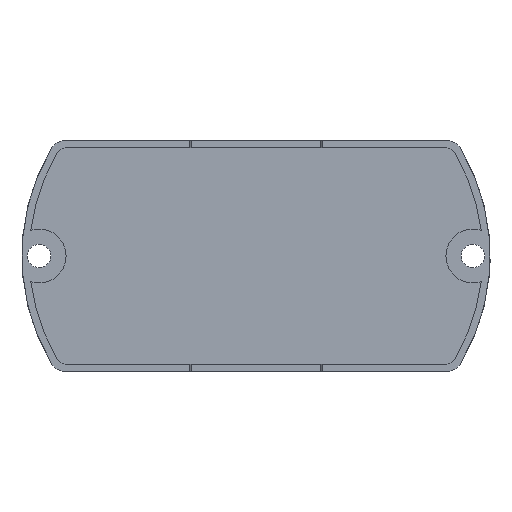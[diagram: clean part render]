
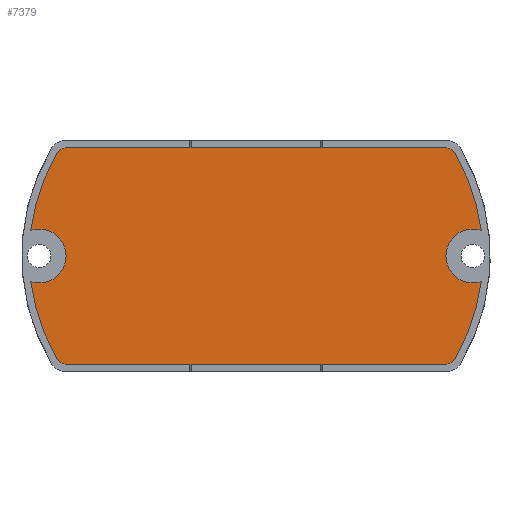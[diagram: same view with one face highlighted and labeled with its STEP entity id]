
A CAD part, front view. The second image highlights one B-rep face of the part: STEP entity #7379.
In plain terms, the highlighted planar face has unit normal (0, -1, 0).
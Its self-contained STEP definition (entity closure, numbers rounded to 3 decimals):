
#2657=CARTESIAN_POINT('',(-6.355,5.5,0.));
#2658=DIRECTION('',(0.,-1.,0.));
#2659=DIRECTION('',(-0.992,0.,-0.126));
#2660=AXIS2_PLACEMENT_3D('',#2657,#2658,#2659);
#2662=CARTESIAN_POINT('',(-60.25,5.5,0.));
#2663=DIRECTION('',(0.,1.,0.));
#2664=DIRECTION('',(-0.306,0.,0.952));
#2665=AXIS2_PLACEMENT_3D('',#2662,#2663,#2664);
#2667=CARTESIAN_POINT('',(-6.355,5.5,0.));
#2668=DIRECTION('',(0.,-1.,0.));
#2669=DIRECTION('',(-0.861,0.,0.508));
#2670=AXIS2_PLACEMENT_3D('',#2667,#2668,#2669);
#2672=CARTESIAN_POINT('',(-52.996,5.5,27.5));
#2673=DIRECTION('',(0.,-1.,0.));
#2674=DIRECTION('',(0.,0.,1.));
#2675=AXIS2_PLACEMENT_3D('',#2672,#2673,#2674);
#2677=DIRECTION('',(-1.,0.,0.));
#2678=VECTOR('',#2677,105.993);
#2679=CARTESIAN_POINT('',(52.996,5.5,30.));
#2680=LINE('',#2679,#2678);
#2681=CARTESIAN_POINT('',(52.996,5.5,27.5));
#2682=DIRECTION('',(0.,-1.,0.));
#2683=DIRECTION('',(0.861,0.,0.508));
#2684=AXIS2_PLACEMENT_3D('',#2681,#2682,#2683);
#2686=CARTESIAN_POINT('',(6.355,5.5,0.));
#2687=DIRECTION('',(0.,-1.,0.));
#2688=DIRECTION('',(0.992,0.,0.126));
#2689=AXIS2_PLACEMENT_3D('',#2686,#2687,#2688);
#2691=CARTESIAN_POINT('',(60.25,5.5,0.));
#2692=DIRECTION('',(0.,1.,0.));
#2693=DIRECTION('',(0.306,0.,-0.952));
#2694=AXIS2_PLACEMENT_3D('',#2691,#2692,#2693);
#2696=CARTESIAN_POINT('',(6.355,5.5,0.));
#2697=DIRECTION('',(0.,-1.,0.));
#2698=DIRECTION('',(0.861,0.,-0.508));
#2699=AXIS2_PLACEMENT_3D('',#2696,#2697,#2698);
#2701=CARTESIAN_POINT('',(52.996,5.5,-27.5));
#2702=DIRECTION('',(0.,-1.,0.));
#2703=DIRECTION('',(0.,0.,-1.));
#2704=AXIS2_PLACEMENT_3D('',#2701,#2702,#2703);
#2706=DIRECTION('',(1.,0.,0.));
#2707=VECTOR('',#2706,105.993);
#2708=CARTESIAN_POINT('',(-52.996,5.5,-30.));
#2709=LINE('',#2708,#2707);
#2710=CARTESIAN_POINT('',(-52.996,5.5,-27.5));
#2711=DIRECTION('',(0.,-1.,0.));
#2712=DIRECTION('',(-0.861,0.,-0.508));
#2713=AXIS2_PLACEMENT_3D('',#2710,#2711,#2712);
#2979=CARTESIAN_POINT('',(-62.548,5.5,7.139));
#2980=CARTESIAN_POINT('',(-62.548,5.5,-7.139));
#2981=VERTEX_POINT('',#2979);
#2982=VERTEX_POINT('',#2980);
#2983=CARTESIAN_POINT('',(62.548,5.5,-7.139));
#2984=CARTESIAN_POINT('',(62.548,5.5,7.139));
#2985=VERTEX_POINT('',#2983);
#2986=VERTEX_POINT('',#2984);
#3011=CARTESIAN_POINT('',(-55.15,5.5,-28.77));
#3012=VERTEX_POINT('',#3011);
#3013=CARTESIAN_POINT('',(-52.996,5.5,-30.));
#3014=VERTEX_POINT('',#3013);
#3015=CARTESIAN_POINT('',(52.996,5.5,-30.));
#3016=VERTEX_POINT('',#3015);
#3017=CARTESIAN_POINT('',(55.15,5.5,-28.77));
#3018=VERTEX_POINT('',#3017);
#3019=CARTESIAN_POINT('',(55.15,5.5,28.77));
#3020=VERTEX_POINT('',#3019);
#3021=CARTESIAN_POINT('',(52.996,5.5,30.));
#3022=VERTEX_POINT('',#3021);
#3023=CARTESIAN_POINT('',(-52.996,5.5,30.));
#3024=VERTEX_POINT('',#3023);
#3025=CARTESIAN_POINT('',(-55.15,5.5,28.77));
#3026=VERTEX_POINT('',#3025);
#7360=CARTESIAN_POINT('',(0.,5.5,-32.));
#7361=DIRECTION('',(0.,-1.,0.));
#7362=DIRECTION('',(-1.,0.,0.));
#7363=AXIS2_PLACEMENT_3D('',#7360,#7361,#7362);
#7364=PLANE('',#7363);
#7365=ORIENTED_EDGE('',*,*,#7173,.F.);
#7366=ORIENTED_EDGE('',*,*,#7187,.F.);
#7367=ORIENTED_EDGE('',*,*,#7201,.F.);
#7368=ORIENTED_EDGE('',*,*,#7215,.F.);
#7369=ORIENTED_EDGE('',*,*,#7234,.F.);
#7370=ORIENTED_EDGE('',*,*,#7299,.F.);
#7371=ORIENTED_EDGE('',*,*,#7313,.F.);
#7372=ORIENTED_EDGE('',*,*,#7327,.F.);
#7373=ORIENTED_EDGE('',*,*,#7341,.F.);
#7374=ORIENTED_EDGE('',*,*,#7354,.F.);
#7375=ORIENTED_EDGE('',*,*,#7139,.F.);
#7376=ORIENTED_EDGE('',*,*,#7159,.F.);
#7377=EDGE_LOOP('',(#7365,#7366,#7367,#7368,#7369,#7370,#7371,#7372,#7373,#7374,
#7375,#7376));
#7378=FACE_OUTER_BOUND('',#7377,.F.);
#2661=CIRCLE('',#2660,56.645);
#2666=CIRCLE('',#2665,7.5);
#2671=CIRCLE('',#2670,56.645);
#2676=CIRCLE('',#2675,2.5);
#2685=CIRCLE('',#2684,2.5);
#2690=CIRCLE('',#2689,56.645);
#2695=CIRCLE('',#2694,7.5);
#2700=CIRCLE('',#2699,56.645);
#2705=CIRCLE('',#2704,2.5);
#2714=CIRCLE('',#2713,2.5);
#7139=EDGE_CURVE('',#3014,#3016,#2709,.T.);
#7159=EDGE_CURVE('',#3012,#3014,#2714,.T.);
#7173=EDGE_CURVE('',#2982,#3012,#2661,.T.);
#7187=EDGE_CURVE('',#2981,#2982,#2666,.T.);
#7201=EDGE_CURVE('',#3026,#2981,#2671,.T.);
#7215=EDGE_CURVE('',#3024,#3026,#2676,.T.);
#7234=EDGE_CURVE('',#3022,#3024,#2680,.T.);
#7299=EDGE_CURVE('',#3020,#3022,#2685,.T.);
#7313=EDGE_CURVE('',#2986,#3020,#2690,.T.);
#7327=EDGE_CURVE('',#2985,#2986,#2695,.T.);
#7341=EDGE_CURVE('',#3018,#2985,#2700,.T.);
#7354=EDGE_CURVE('',#3016,#3018,#2705,.T.);
#7379=ADVANCED_FACE('',(#7378),#7364,.T.);
